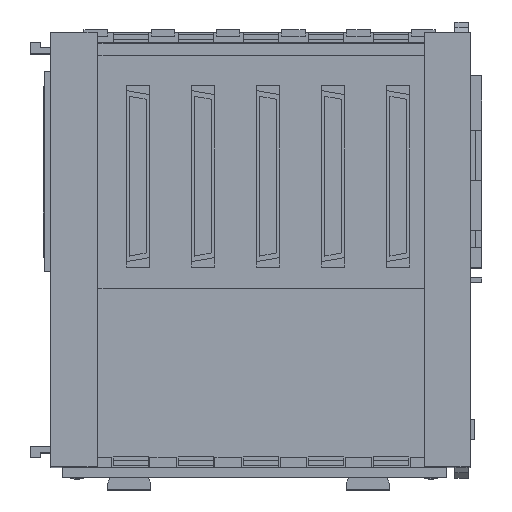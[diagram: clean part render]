
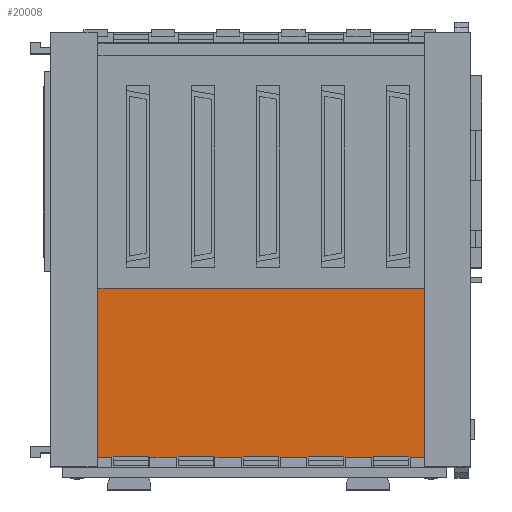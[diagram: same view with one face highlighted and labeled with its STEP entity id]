
A CAD part, top view. The second image highlights one B-rep face of the part: STEP entity #20008.
In plain terms, the highlighted planar face has unit normal (0, 0, 1).
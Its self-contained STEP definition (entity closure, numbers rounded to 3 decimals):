
#19967 = ORIENTED_EDGE ( 'NONE', *, *, #19968, .F. ) ;
#19968 = EDGE_CURVE ( 'NONE', #19969, #20018, #22887, .T. ) ;
#19969 = VERTEX_POINT ( 'NONE', #22883 ) ;
#19970 = ORIENTED_EDGE ( 'NONE', *, *, #19972, .T. ) ;
#19972 = EDGE_CURVE ( 'NONE', #19969, #19974, #22882, .T. ) ;
#19974 = VERTEX_POINT ( 'NONE', #22878 ) ;
#19976 = ORIENTED_EDGE ( 'NONE', *, *, #19978, .T. ) ;
#19978 = EDGE_CURVE ( 'NONE', #19974, #20016, #22877, .T. ) ;
#20008 = ADVANCED_FACE ( 'NONE', ( #22909 ), #22908, .T. ) ;
#20012 = EDGE_LOOP ( 'NONE', ( #20014, #19967, #19970, #19976 ) ) ;
#20014 = ORIENTED_EDGE ( 'NONE', *, *, #20015, .T. ) ;
#20015 = EDGE_CURVE ( 'NONE', #20016, #20018, #22903, .T. ) ;
#20016 = VERTEX_POINT ( 'NONE', #22899 ) ;
#20018 = VERTEX_POINT ( 'NONE', #22898 ) ;
#22874 = DIRECTION ( 'NONE',  ( 1., 0., 0. ) ) ;
#22875 = VECTOR ( 'NONE', #22874, 1000. ) ;
#22876 = CARTESIAN_POINT ( 'NONE',  ( 13.8, -65.3, 11.5 ) ) ;
#22877 = LINE ( 'NONE', #22876, #22875 ) ;
#22878 = CARTESIAN_POINT ( 'NONE',  ( 5.1, -65.3, 11.5 ) ) ;
#22879 = DIRECTION ( 'NONE',  ( 0., -1., 0. ) ) ;
#22880 = VECTOR ( 'NONE', #22879, 1000. ) ;
#22881 = CARTESIAN_POINT ( 'NONE',  ( 5.1, 58.7, 11.5 ) ) ;
#22882 = LINE ( 'NONE', #22881, #22880 ) ;
#22883 = CARTESIAN_POINT ( 'NONE',  ( 5.1, -14.8, 11.5 ) ) ;
#22884 = DIRECTION ( 'NONE',  ( 1., 0., 0. ) ) ;
#22885 = VECTOR ( 'NONE', #22884, 1000. ) ;
#22886 = CARTESIAN_POINT ( 'NONE',  ( 5.1, -14.8, 11.5 ) ) ;
#22887 = LINE ( 'NONE', #22886, #22885 ) ;
#22898 = CARTESIAN_POINT ( 'NONE',  ( 116.3, -14.8, 11.5 ) ) ;
#22899 = CARTESIAN_POINT ( 'NONE',  ( 116.3, -65.3, 11.5 ) ) ;
#22900 = DIRECTION ( 'NONE',  ( 0., 1., 0. ) ) ;
#22901 = VECTOR ( 'NONE', #22900, 1000. ) ;
#22902 = CARTESIAN_POINT ( 'NONE',  ( 116.3, -65.3, 11.5 ) ) ;
#22903 = LINE ( 'NONE', #22902, #22901 ) ;
#22904 = DIRECTION ( 'NONE',  ( 1., 0., 0. ) ) ;
#22905 = DIRECTION ( 'NONE',  ( 0., 0., 1. ) ) ;
#22906 = CARTESIAN_POINT ( 'NONE',  ( 13.8, -65.3, 11.5 ) ) ;
#22907 = AXIS2_PLACEMENT_3D ( 'NONE', #22906, #22905, #22904 ) ;
#22908 = PLANE ( 'NONE',  #22907 ) ;
#22909 = FACE_OUTER_BOUND ( 'NONE', #20012, .T. ) ;
